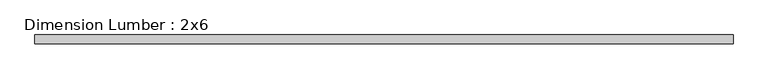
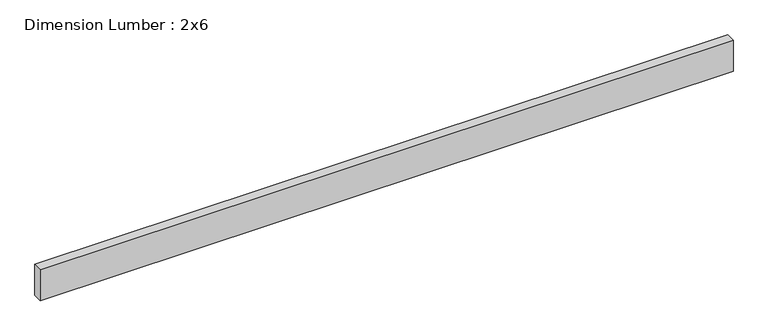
"""IFC4 building model written with IfcOpenShell, lengths in millimetres: beam geometry, Dimension Lumber : 2x6."""

from ifc_helpers import new_model, si_unit, frame, origin, place, context, project, spatial, polyline, outline, extrude, source, transform, mapped, element, save


def dimension_lumber_2x6_af308bb7(model_context):
    return source(origin(), model_context, "Body", "SweptSolid", [
        extrude(outline(polyline([(1473.2, 19.05), (1473.2, -19.05), (-1473.2, -19.05), (-1473.2, 19.05), (1473.2, 19.05)])), frame((0.0, 0.0, -69.85), z_axis=(0.0, 0.0, 1.0), x_axis=(1.0, 0.0, 0.0)), (0.0, 0.0, 1.0), 139.7),
    ])


if __name__ == "__main__":
    model = new_model("IFC4")
    model_context = context("Model", 3, world=origin())
    ifc_project = project(units=[si_unit("LENGTHUNIT", "METRE", prefix="MILLI")], contexts=[model_context])
    site = spatial("IfcSite", under=ifc_project)
    building = spatial("IfcBuilding", under=site)
    placement = place(None, origin())
    dimension_lumber_2x6_shape = dimension_lumber_2x6_af308bb7(model_context)
    element("IfcBeam", 1, ObjectType="Dimension Lumber : 2x6", at=placement, inside=building, context=model_context, shape_type="MappedRepresentation", body=[
        mapped(dimension_lumber_2x6_shape, transform((0.0, 0.0, 0.0), x_axis=(1.0, 0.0, 0.0), y_axis=(0.0, 1.0, 0.0), z_axis=(0.0, 0.0, 1.0))),
    ])
    save(model, "model.ifc")
